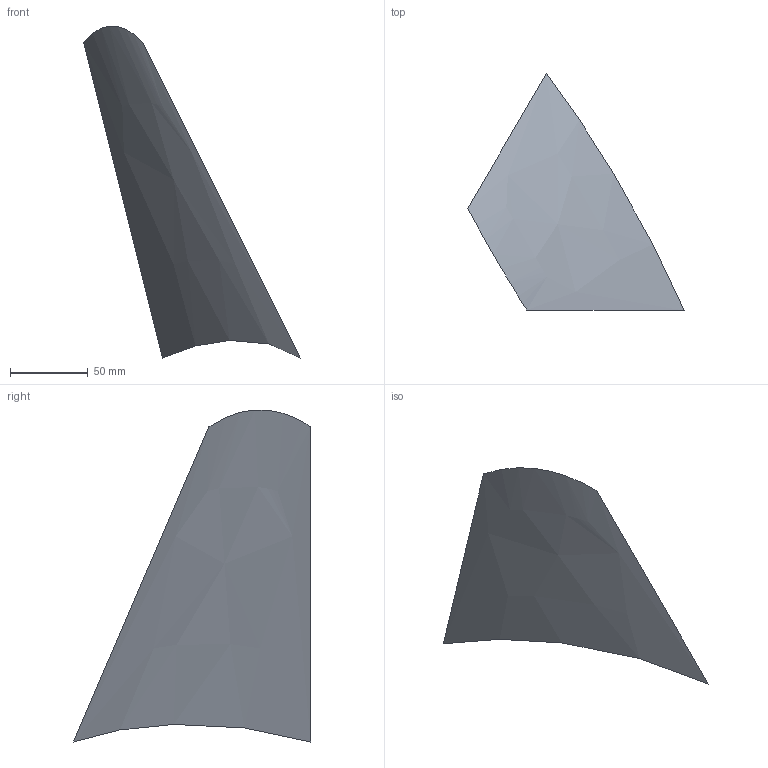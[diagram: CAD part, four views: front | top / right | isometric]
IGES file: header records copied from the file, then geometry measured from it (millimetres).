
Global section: file name: C:\My Documents\; native system: Rhinoceros ( Sep 24 1998 ); preprocessor: Trout Lake IGES 009 Sep  1 1998; date: 000403.035850
Bounding box: 139.7 x 152.91 x 214.09 mm (x, y, z)
Surface area: 27700.9 mm2 (no closed solid volume)
Topology: 0 solids, 0 shells, 1 faces, 4 edges, 4 vertices
Faces by surface type: bspline 1
